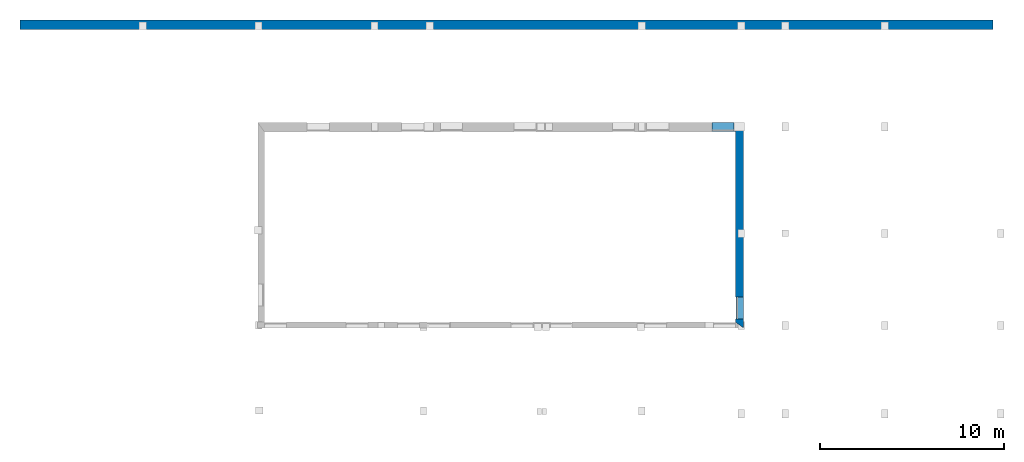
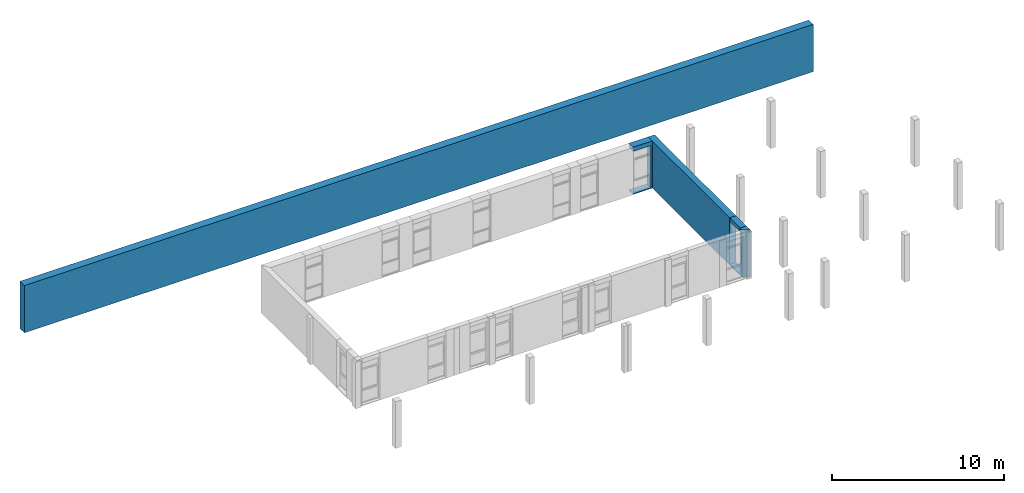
# One storey, part 8 of 11: 5 walls, 2 openings.
"""IFC2X3 building model written with IfcOpenShell, lengths in millimetres."""

from ifc_helpers import new_model, entity, si_unit, converted_unit, derived_unit, money_unit, direction, frame, origin_with_axes, origin_2d_with_axis, place, context, subcontext, project, spatial, polyline, rectangle, outline, extrude, material, layer, layer_set, layer_usage, type_object, element, save


model = new_model("IFC2X3")

# Units and contexts
model_context = context("Model", 3, precision=0.01, world=origin_with_axes(), true_north=direction((0.0, 1.0)))
body_context = subcontext(model_context, "Body", "Model", "MODEL_VIEW")
ifc_project = project(units=[si_unit("LENGTHUNIT", "METRE", prefix="MILLI"), si_unit("AREAUNIT", "SQUARE_METRE"), si_unit("VOLUMEUNIT", "CUBIC_METRE"), converted_unit("PLANEANGLEUNIT", "DEGREE", entity("IfcPlaneAngleMeasure", 0.0174532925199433), si_unit("PLANEANGLEUNIT", "RADIAN"), dimensions=[0, 0, 0, 0, 0, 0, 0]), money_unit("USD"), converted_unit("TIMEUNIT", "Year", entity("IfcTimeMeasure", 31557600.0), si_unit("TIMEUNIT", "SECOND"), dimensions=[0, 0, 1, 0, 0, 0, 0]), si_unit("MASSUNIT", "GRAM", prefix="KILO"), si_unit("THERMODYNAMICTEMPERATUREUNIT", "DEGREE_CELSIUS"), si_unit("LUMINOUSINTENSITYUNIT", "LUMEN"), si_unit("ENERGYUNIT", "JOULE", prefix="MEGA"), derived_unit("THERMALCONDUCTANCEUNIT", [(si_unit("POWERUNIT", "WATT"), 1), (si_unit("LENGTHUNIT", "METRE"), -1), (si_unit("THERMODYNAMICTEMPERATUREUNIT", "KELVIN"), -1)]), derived_unit("SPECIFICHEATCAPACITYUNIT", [(si_unit("ENERGYUNIT", "JOULE"), 1), (si_unit("MASSUNIT", "GRAM", prefix="KILO"), -1), (si_unit("THERMODYNAMICTEMPERATUREUNIT", "KELVIN"), -1)]), derived_unit("MASSDENSITYUNIT", [(si_unit("MASSUNIT", "GRAM", prefix="KILO"), 1), (si_unit("VOLUMEUNIT", "CUBIC_METRE"), -1)])], contexts=[model_context])

# Site, building, storey
site_placement = place(None, origin_with_axes())
site = spatial("IfcSite", under=ifc_project, at=site_placement, Name="Sitio", CompositionType="ELEMENT")
building_placement = place(site_placement, origin_with_axes())
building = spatial("IfcBuilding", under=site, at=building_placement, Name="Construcción", CompositionType="ELEMENT")
storey_placement = place(building_placement, frame((0.0, 0.0, -3650.0), z_axis=(0.0, 0.0, 1.0), x_axis=(1.0, 0.0, 0.0)))
storey = spatial("IfcBuildingStorey", under=building, at=storey_placement, Name="-1. Piso", CompositionType="ELEMENT", Elevation=-3650.0)

# Wall
ifc_material_1 = material(Name="ARQ_CE217_Gero")
ifc_layer_1 = layer(ifc_material_1, 100.0, ventilated="UNKNOWN")
ifc_material_2 = material(Name="ARQ_AI031_Aillament_Poliestireno expandido EPS")
ifc_layer_2 = layer(ifc_material_2, 205.0, ventilated="UNKNOWN")
ifc_material_3 = material(Name="ARQ_CE218_Ceramic")
ifc_layer_3 = layer(ifc_material_3, 200.0, ventilated="UNKNOWN")
ifc_material_4 = material(Name="ARQ_AM246_Arrebossat_De_Guix")
ifc_layer_4 = layer(ifc_material_4, 10.0, ventilated="UNKNOWN")
ifc_layer_set_1 = layer_set([ifc_layer_1, ifc_layer_2, ifc_layer_3, ifc_layer_4], Name="façana pati CR5")
ifc_layer_usage_1 = layer_usage(ifc_layer_set_1, "AXIS2", "NEGATIVE", 515.0)
wall_type_1 = type_object("IfcWallType", Name="façana pati CR5 515", PredefinedType="NOTDEFINED")
wall_1_placement = place(storey_placement, frame((11882.64037720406, 4378.454186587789, 0.0), z_axis=(0.0, 0.0, 1.0), x_axis=(-1.0, 0.0, 0.0)))
element("IfcWallStandardCase", 1, at=wall_1_placement, inside=storey, type_object=wall_type_1, material=ifc_layer_usage_1, Name="MS-201", context=body_context, shape_type="SweptSolid", body=[
    extrude(outline(polyline([(0.0, 0.0), (52850.32927292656, 0.0), (52850.32927292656, 515.0000000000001), (0.0, 515.0000000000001), (0.0, 0.0)])), origin_with_axes(), (0.0, 0.0, 1.0), 3350.0),
])

# Wall, opening
ifc_layer_5 = layer(ifc_material_4, 10.0, ventilated="UNKNOWN")
ifc_layer_6 = layer(ifc_material_1, 120.0, ventilated="UNKNOWN")
ifc_layer_7 = layer(ifc_material_2, 120.0, ventilated="UNKNOWN")
ifc_layer_8 = layer(ifc_material_3, 220.0, ventilated="UNKNOWN")
ifc_layer_9 = layer(ifc_material_4, 10.0, ventilated="UNKNOWN")
ifc_layer_set_2 = layer_set([ifc_layer_5, ifc_layer_6, ifc_layer_7, ifc_layer_8, ifc_layer_9], Name="façana pati CR2 (ampit)")
ifc_layer_usage_2 = layer_usage(ifc_layer_set_2, "AXIS2", "POSITIVE", -480.0)
wall_type_2 = type_object("IfcWallType", Name="façana pati CR2 (ampit) 480", PredefinedType="NOTDEFINED")
wall_2_placement = place(storey_placement, frame((-3383.431355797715, -1193.975823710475, 0.0), z_axis=(0.0, 0.0, 1.0), x_axis=(1.0, 0.0, 0.0)))
wall_2 = element("IfcWallStandardCase", 2, at=wall_2_placement, inside=storey, type_object=wall_type_2, material=ifc_layer_usage_2, Name="MS-200", context=body_context, shape_type="SweptSolid", body=[
    extrude(outline(polyline([(0.0, -480.0), (1282.322350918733, -480.0), (1282.322350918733, 0.0), (0.0, 0.0), (0.0, -480.0)])), origin_with_axes(), (0.0, 0.0, 1.0), 3350.0),
])
opening_1_placement = place(wall_2_placement, frame((599.9999999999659, 0.0, 49.99999999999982), z_axis=(0.0, 0.0, 1.0), x_axis=(1.0, 0.0, 0.0)))
element("IfcOpeningElement", 3, at=opening_1_placement, cuts=wall_2, Name="V - 008", context=body_context, shape_type="SweptSolid", body=[
    extrude(rectangle(XDim=1199.999999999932, YDim=3000.0, at=origin_2d_with_axis()), frame((0.0, -429.9999999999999, 1500.0), z_axis=(0.0, -1.0, 0.0), x_axis=(-1.0, 0.0, 0.0)), (0.0, 0.0, -1.0), 909.9999999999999),
    extrude(rectangle(XDim=1199.999999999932, YDim=3000.0, at=origin_2d_with_axis()), frame((0.0, -429.9999999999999, 1500.0), z_axis=(0.0, 1.0, 0.0), x_axis=(-1.0, 0.0, 0.0)), (0.0, 0.0, -1.0), 530.0),
])

# Walls
ifc_layer_10 = layer(ifc_material_1, 150.0, ventilated="UNKNOWN")
ifc_layer_11 = layer(ifc_material_2, 180.0, ventilated="UNKNOWN")
ifc_layer_12 = layer(ifc_material_3, 80.0, ventilated="UNKNOWN")
ifc_layer_13 = layer(ifc_material_4, 10.0, ventilated="UNKNOWN")
ifc_layer_set_3 = layer_set([ifc_layer_10, ifc_layer_11, ifc_layer_12, ifc_layer_13], Name="façana pati CR1")
ifc_layer_usage_3 = layer_usage(ifc_layer_set_3, "AXIS2", "POSITIVE", -420.0)
wall_type_3 = type_object("IfcWallType", Name="façana pati CR1 420", PredefinedType="NOTDEFINED")
wall_3_placement = place(storey_placement, frame((-1681.109004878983, -11858.97582371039, 0.0), z_axis=(0.0, 0.0, 1.0), x_axis=(0.0, -1.0, 0.0)))
element("IfcWallStandardCase", 4, at=wall_3_placement, inside=storey, type_object=wall_type_3, material=ifc_layer_usage_3, Name="MS-200", context=body_context, shape_type="SweptSolid", body=[
    extrude(outline(polyline([(0.0, -420.0000000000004), (180.0000000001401, -419.9999999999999), (480.000000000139, 0.0), (0.0, 0.0), (0.0, -420.0000000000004)])), origin_with_axes(), (0.0, 0.0, 1.0), 3350.0),
])
ifc_layer_usage_4 = layer_usage(ifc_layer_set_3, "AXIS2", "POSITIVE", -420.0)
wall_4_placement = place(storey_placement, frame((-1681.10900487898, -1193.975823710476, 0.0), z_axis=(0.0, 0.0, 1.0), x_axis=(0.0, -1.0, 0.0)))
element("IfcWallStandardCase", 5, at=wall_4_placement, inside=storey, type_object=wall_type_3, material=ifc_layer_usage_4, Name="MS-200", context=body_context, shape_type="SweptSolid", body=[
    extrude(outline(polyline([(0.0, -419.9999999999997), (9465.00000000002, -419.9999999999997), (9465.00000000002, 0.0), (0.0, 0.0), (0.0, -419.9999999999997)])), origin_with_axes(), (0.0, 0.0, 1.0), 3350.0),
])

# Wall, opening
ifc_layer_14 = layer(ifc_material_4, 10.0, ventilated="UNKNOWN")
ifc_layer_15 = layer(ifc_material_1, 150.0, ventilated="UNKNOWN")
ifc_layer_16 = layer(ifc_material_2, 150.0, ventilated="UNKNOWN")
ifc_layer_17 = layer(ifc_material_3, 80.0, ventilated="UNKNOWN")
ifc_layer_18 = layer(ifc_material_4, 10.0, ventilated="UNKNOWN")
ifc_layer_set_4 = layer_set([ifc_layer_14, ifc_layer_15, ifc_layer_16, ifc_layer_17, ifc_layer_18], Name="façana pati CR1 (ampit)")
ifc_layer_usage_5 = layer_usage(ifc_layer_set_4, "AXIS2", "POSITIVE", -400.0)
wall_type_4 = type_object("IfcWallType", Name="façana pati CR1 (ampit) 400", PredefinedType="NOTDEFINED")
wall_5_placement = place(storey_placement, frame((-1681.109004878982, -10658.9758237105, 0.0), z_axis=(0.0, 0.0, 1.0), x_axis=(0.0, -1.0, 0.0)))
wall_5 = element("IfcWallStandardCase", 6, at=wall_5_placement, inside=storey, type_object=wall_type_4, material=ifc_layer_usage_5, Name="MS-199", context=body_context, shape_type="SweptSolid", body=[
    extrude(outline(polyline([(0.0, -399.9999999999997), (1199.999999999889, -400.0000000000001), (1199.999999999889, 0.0), (0.0, 0.0), (0.0, -399.9999999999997)])), origin_with_axes(), (0.0, 0.0, 1.0), 3350.0),
])
opening_2_placement = place(wall_5_placement, frame((599.9999999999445, 0.0, 49.99999999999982), z_axis=(0.0, 0.0, 1.0), x_axis=(1.0, 0.0, 0.0)))
element("IfcOpeningElement", 7, at=opening_2_placement, cuts=wall_5, Name="V - 008", context=body_context, shape_type="SweptSolid", body=[
    extrude(rectangle(XDim=1199.999999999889, YDim=3000.0, at=origin_2d_with_axis()), frame((0.0, -350.0000000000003, 1500.0), z_axis=(0.0, -1.0, 0.0), x_axis=(-1.0, 0.0, 0.0)), (0.0, 0.0, -1.0), 750.0),
    extrude(rectangle(XDim=1199.999999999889, YDim=3000.0, at=origin_2d_with_axis()), frame((0.0, -350.0000000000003, 1500.0), z_axis=(0.0, 1.0, 0.0), x_axis=(-1.0, 0.0, 0.0)), (0.0, 0.0, -1.0), 450.0),
])

save(model, "model.ifc")
